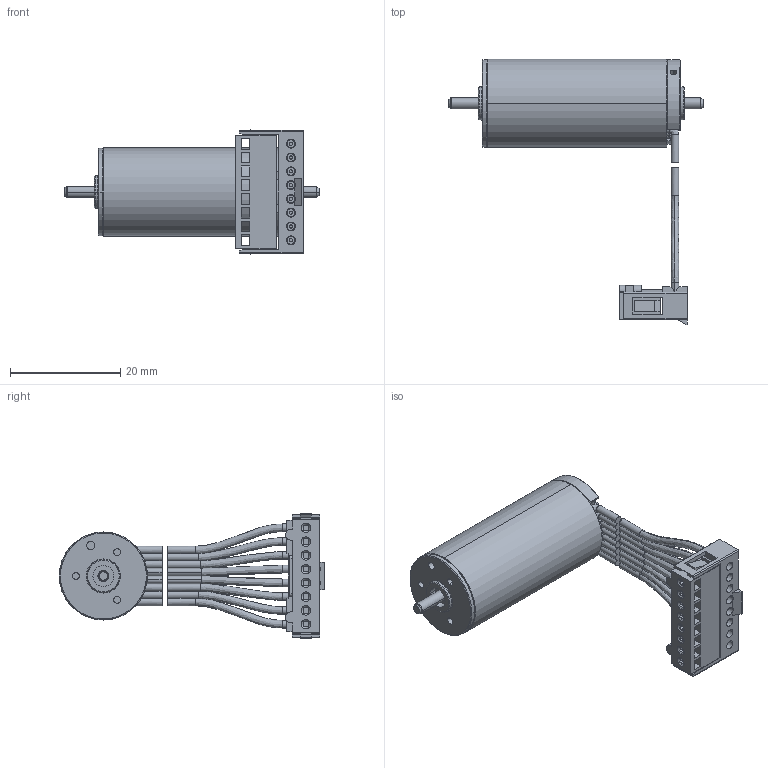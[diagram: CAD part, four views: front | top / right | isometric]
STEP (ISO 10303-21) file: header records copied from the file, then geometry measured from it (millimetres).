
FILE_DESCRIPTION((''),'2;1');
FILE_NAME('283831_EC-MAX16_8W','2016-10-14T',('mmagpetk'),(''),'CREO PARAMETRIC BY PTC INC, 2016050','CREO PARAMETRIC BY PTC INC, 2016050','');
FILE_SCHEMA(('CONFIG_CONTROL_DESIGN'));
Length unit declared in the file: millimetre
Products named in the file (1): 283831_EC-MAX16_8W
Bounding box: 46.3 x 48.15 x 22.6 mm (x, y, z)
Volume: 8651.3 mm3; surface area: 5499.7 mm2
Topology: 6 solids, 6 shells, 573 faces, 1620 edges, 1062 vertices
Faces by surface type: plane 310, cylinder 196, cone 32, bspline 28, torus 7
Entity records: 28922 total; most frequent: CARTESIAN_POINT 5534, ORIENTED_EDGE 3236, DIRECTION 2985, PRESENTATION_STYLE_ASSIGNMENT 2084, STYLED_ITEM 1624, CURVE_STYLE 1618, EDGE_CURVE 1618, VERTEX_POINT 1062
